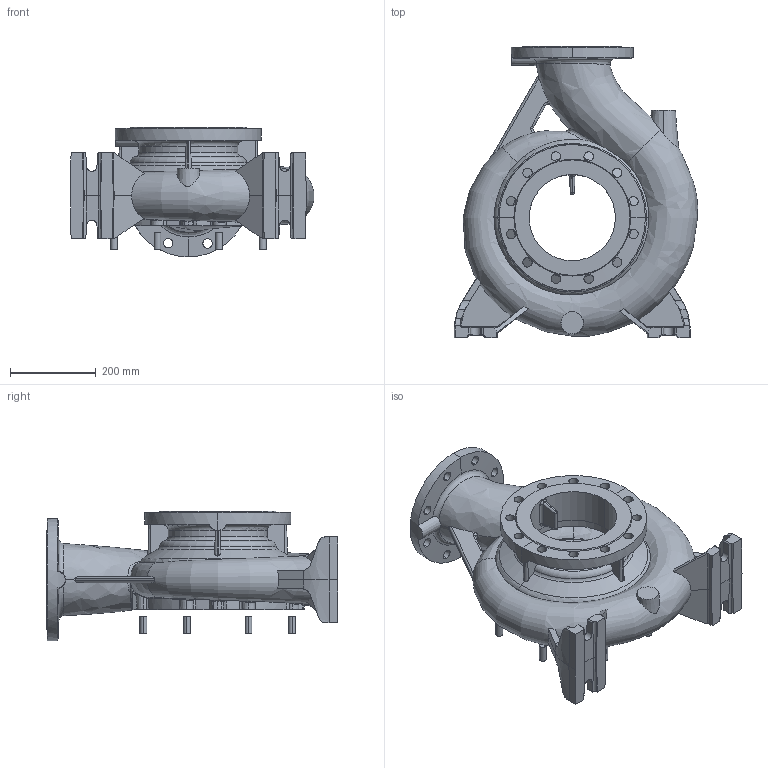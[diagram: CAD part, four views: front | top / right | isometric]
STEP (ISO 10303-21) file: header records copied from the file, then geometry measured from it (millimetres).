
FILE_DESCRIPTION (( 'STEP AP203' ), '1' );
FILE_NAME ('NM 150-315.STEP', '2016-11-10T13:10:13', ( '' ), ( '' ), 'SwSTEP 2.0', 'SolidWorks 2015', '' );
FILE_SCHEMA (( 'CONFIG_CONTROL_DESIGN' ));
Length unit declared in the file: millimetre
Products named in the file (1): NM 150-315
Bounding box: 567.34 x 680 x 302.5 mm (x, y, z)
Volume: 12372312.2 mm3; surface area: 1689426.5 mm2
Topology: 9 solids, 9 shells, 562 faces, 1489 edges, 943 vertices
Faces by surface type: cone 155, plane 152, cylinder 111, bspline 100, torus 36, sphere 8
Entity records: 43140 total; most frequent: CARTESIAN_POINT 30524, ORIENTED_EDGE 2964, DIRECTION 2163, EDGE_CURVE 1482, VERTEX_POINT 943, AXIS2_PLACEMENT_3D 878, EDGE_LOOP 613, B_SPLINE_CURVE_WITH_KNOTS 598
